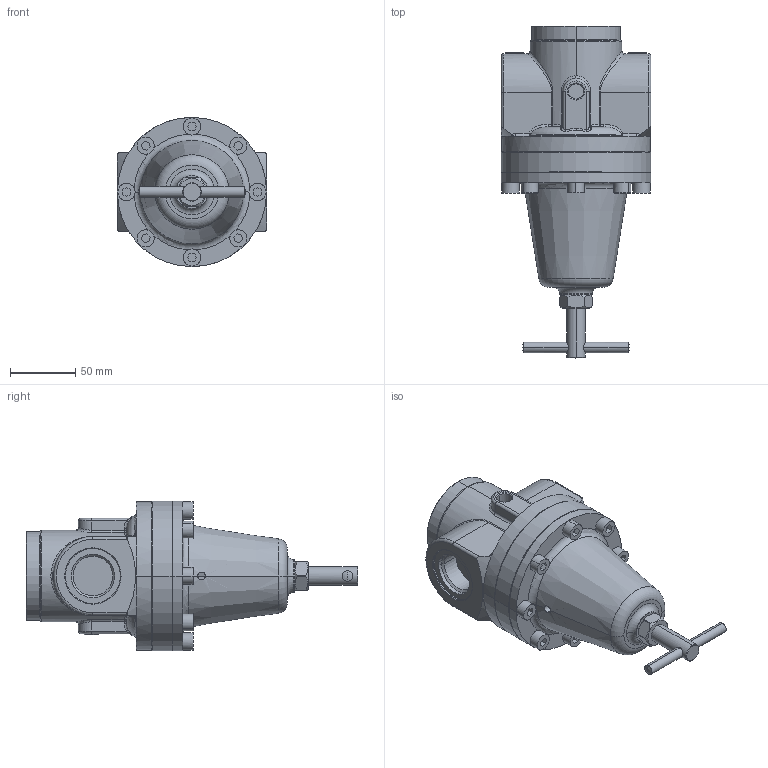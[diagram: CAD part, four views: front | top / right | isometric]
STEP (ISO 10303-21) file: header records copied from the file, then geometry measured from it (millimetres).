
FILE_DESCRIPTION((''),'2;1');
FILE_NAME('302_59X','2023-07-07T',('helmut.bau'),(''),'PRO/ENGINEER BY PARAMETRIC TECHNOLOGY CORPORATION, 2011490','PRO/ENGINEER BY PARAMETRIC TECHNOLOGY CORPORATION, 2011490','');
FILE_SCHEMA(('CONFIG_CONTROL_DESIGN'));
Length unit declared in the file: millimetre
Products named in the file (1): 302_59X
Bounding box: 114 x 253.4 x 114 mm (x, y, z)
Volume: 768965.1 mm3; surface area: 144787.6 mm2
Topology: 1 solids, 2 shells, 506 faces, 1231 edges, 764 vertices
Faces by surface type: cylinder 162, plane 161, cone 76, torus 63, bspline 26, sphere 18
Entity records: 19108 total; most frequent: CARTESIAN_POINT 7236, DIRECTION 2569, ORIENTED_EDGE 2434, EDGE_CURVE 1217, AXIS2_PLACEMENT_3D 1050, VERTEX_POINT 764, CIRCLE 570, EDGE_LOOP 559
